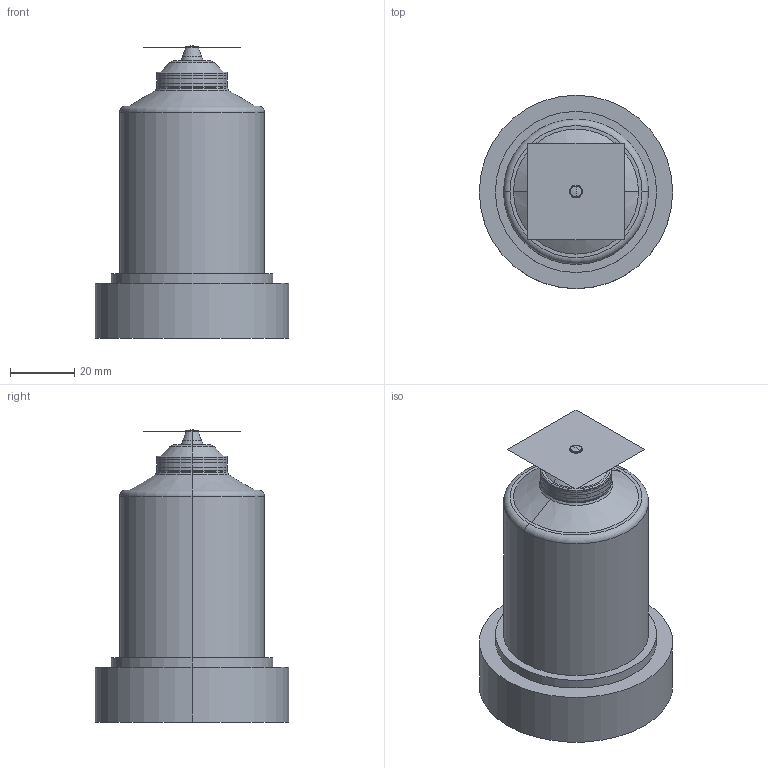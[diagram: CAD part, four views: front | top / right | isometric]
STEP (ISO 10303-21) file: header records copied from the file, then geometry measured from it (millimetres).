
FILE_DESCRIPTION (( 'STEP AP214' ), '1' );
FILE_NAME ('16E-06-090-VTW.STEP', '2021-07-14T13:43:46', ( '' ), ( '' ), 'SwSTEP 2.0', 'SolidWorks 2018', '' );
FILE_SCHEMA (( 'AUTOMOTIVE_DESIGN' ));
Length unit declared in the file: millimetre
Products named in the file (3): cutout_16E-06-090-VTW; nozzle_16E-06-090-VTW; 16E-06-090-VTW
Assembly tree (2 placements, depth 2):
  16E-06-090-VTW
    nozzle_16E-06-090-VTW
    cutout_16E-06-090-VTW
Bounding box: 60 x 60 x 90.65 mm (x, y, z)
Volume: 143190.2 mm3; surface area: 43578.9 mm2
Topology: 1 solids, 4 shells, 309 faces, 868 edges, 532 vertices
Faces by surface type: cylinder 118, plane 117, torus 41, cone 31, sphere 2
Entity records: 10896 total; most frequent: CARTESIAN_POINT 2529, DIRECTION 1869, ORIENTED_EDGE 1732, EDGE_CURVE 868, AXIS2_PLACEMENT_3D 744, VERTEX_POINT 532, CIRCLE 429, VECTOR 381
